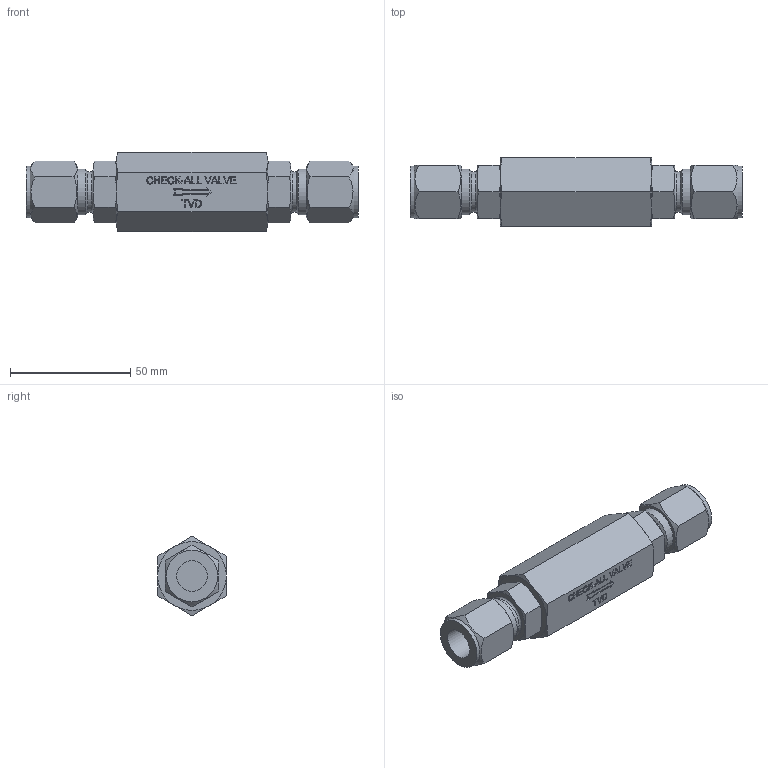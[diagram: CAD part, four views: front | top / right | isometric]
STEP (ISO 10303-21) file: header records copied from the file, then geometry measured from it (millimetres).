
FILE_DESCRIPTION( ( 'Unknown' ), '1' );
FILE_NAME( 'Y:/ENGR/3D Solid Edge Models/TV/stp/TVD.stp', 'Unknown', ( 'Unknown' ), ( 'Unknown' ), 'PSStep 16.0.42', 'Unknown', ' ' );
FILE_SCHEMA( ( 'AUTOMOTIVE_DESIGN { 1 0 10303 214 1 1 1 1 }' ) );
Length unit declared in the file: millimetre
Products named in the file (1): 1
Bounding box: 138.18 x 28.57 x 33 mm (x, y, z)
Volume: 68528.4 mm3; surface area: 15629.2 mm2
Topology: 1 solids, 1 shells, 271 faces, 677 edges, 438 vertices
Faces by surface type: extrusion 133, plane 86, cone 42, cylinder 8, torus 2
Full cylindrical faces by diameter (mm): 12.878 x2, 16.764 x2, 19.05 x2, 21.565 x2
Entity records: 11496 total; most frequent: CARTESIAN_POINT 2962, ORIENTED_EDGE 1306, DIRECTION 875, EDGE_CURVE 653, VECTOR 485, VERTEX_POINT 430, PRESENTATION_STYLE_ASSIGNMENT 381, COLOUR_RGB 381
